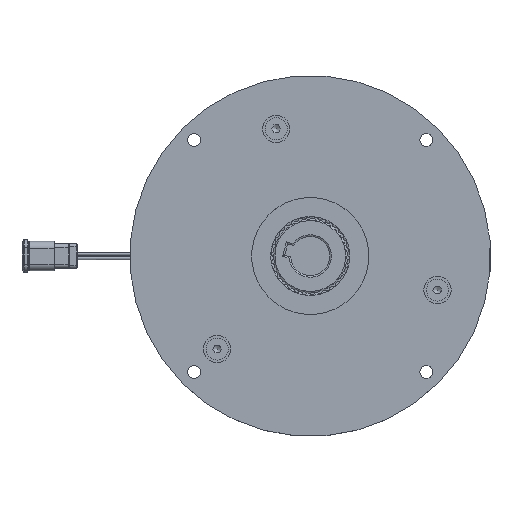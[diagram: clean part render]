
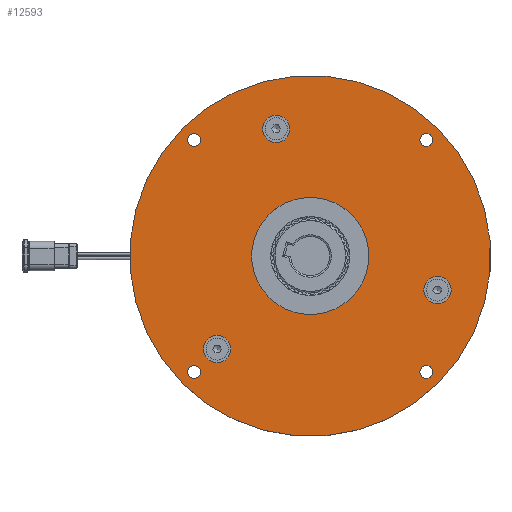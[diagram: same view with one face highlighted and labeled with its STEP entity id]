
A CAD part, top view. The second image highlights one B-rep face of the part: STEP entity #12593.
In plain terms, the highlighted planar face has unit normal (0, 0, 1).
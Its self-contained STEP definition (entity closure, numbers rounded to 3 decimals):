
#143=FACE_BOUND('',#1987,.T.);
#144=FACE_BOUND('',#1988,.T.);
#145=FACE_BOUND('',#1989,.T.);
#146=FACE_BOUND('',#1990,.T.);
#147=FACE_BOUND('',#1991,.T.);
#148=FACE_BOUND('',#1992,.T.);
#149=FACE_BOUND('',#1993,.T.);
#150=FACE_BOUND('',#1994,.T.);
#216=PLANE('',#13521);
#639=CIRCLE('',#13522,92.5);
#640=CIRCLE('',#13523,3.3);
#641=CIRCLE('',#13524,3.3);
#642=CIRCLE('',#13525,3.3);
#643=CIRCLE('',#13526,3.3);
#644=CIRCLE('',#13527,3.3);
#645=CIRCLE('',#13528,3.3);
#646=CIRCLE('',#13529,3.3);
#647=CIRCLE('',#13530,3.3);
#648=CIRCLE('',#13531,7.);
#649=CIRCLE('',#13532,7.);
#650=CIRCLE('',#13533,7.);
#651=CIRCLE('',#13534,7.);
#652=CIRCLE('',#13535,7.);
#653=CIRCLE('',#13536,7.);
#654=CIRCLE('',#13537,30.);
#1333=FACE_OUTER_BOUND('',#1986,.T.);
#1986=EDGE_LOOP('',(#9340));
#1987=EDGE_LOOP('',(#9341,#9342));
#1988=EDGE_LOOP('',(#9343,#9344));
#1989=EDGE_LOOP('',(#9345,#9346));
#1990=EDGE_LOOP('',(#9347,#9348));
#1991=EDGE_LOOP('',(#9349,#9350));
#1992=EDGE_LOOP('',(#9351,#9352));
#1993=EDGE_LOOP('',(#9353,#9354));
#1994=EDGE_LOOP('',(#9355));
#4976=VERTEX_POINT('',#20840);
#4977=VERTEX_POINT('',#20842);
#4978=VERTEX_POINT('',#20843);
#4979=VERTEX_POINT('',#20846);
#4980=VERTEX_POINT('',#20847);
#4981=VERTEX_POINT('',#20850);
#4982=VERTEX_POINT('',#20851);
#4983=VERTEX_POINT('',#20854);
#4984=VERTEX_POINT('',#20855);
#4985=VERTEX_POINT('',#20858);
#4986=VERTEX_POINT('',#20859);
#4987=VERTEX_POINT('',#20862);
#4988=VERTEX_POINT('',#20863);
#4989=VERTEX_POINT('',#20866);
#4990=VERTEX_POINT('',#20867);
#4991=VERTEX_POINT('',#20870);
#6524=EDGE_CURVE('',#4976,#4976,#639,.T.);
#6525=EDGE_CURVE('',#4977,#4978,#640,.T.);
#6526=EDGE_CURVE('',#4978,#4977,#641,.T.);
#6527=EDGE_CURVE('',#4979,#4980,#642,.T.);
#6528=EDGE_CURVE('',#4980,#4979,#643,.T.);
#6529=EDGE_CURVE('',#4981,#4982,#644,.T.);
#6530=EDGE_CURVE('',#4982,#4981,#645,.T.);
#6531=EDGE_CURVE('',#4983,#4984,#646,.T.);
#6532=EDGE_CURVE('',#4984,#4983,#647,.T.);
#6533=EDGE_CURVE('',#4985,#4986,#648,.T.);
#6534=EDGE_CURVE('',#4986,#4985,#649,.T.);
#6535=EDGE_CURVE('',#4987,#4988,#650,.T.);
#6536=EDGE_CURVE('',#4988,#4987,#651,.T.);
#6537=EDGE_CURVE('',#4989,#4990,#652,.T.);
#6538=EDGE_CURVE('',#4990,#4989,#653,.T.);
#6539=EDGE_CURVE('',#4991,#4991,#654,.T.);
#9340=ORIENTED_EDGE('',*,*,#6524,.T.);
#9341=ORIENTED_EDGE('',*,*,#6525,.T.);
#9342=ORIENTED_EDGE('',*,*,#6526,.T.);
#9343=ORIENTED_EDGE('',*,*,#6527,.T.);
#9344=ORIENTED_EDGE('',*,*,#6528,.T.);
#9345=ORIENTED_EDGE('',*,*,#6529,.T.);
#9346=ORIENTED_EDGE('',*,*,#6530,.T.);
#9347=ORIENTED_EDGE('',*,*,#6531,.T.);
#9348=ORIENTED_EDGE('',*,*,#6532,.T.);
#9349=ORIENTED_EDGE('',*,*,#6533,.T.);
#9350=ORIENTED_EDGE('',*,*,#6534,.T.);
#9351=ORIENTED_EDGE('',*,*,#6535,.T.);
#9352=ORIENTED_EDGE('',*,*,#6536,.T.);
#9353=ORIENTED_EDGE('',*,*,#6537,.T.);
#9354=ORIENTED_EDGE('',*,*,#6538,.T.);
#9355=ORIENTED_EDGE('',*,*,#6539,.T.);
#12593=ADVANCED_FACE('',(#1333,#143,#144,#145,#146,#147,#148,#149,#150),
#216,.T.);
#13521=AXIS2_PLACEMENT_3D('',#20839,#15643,#15644);
#13522=AXIS2_PLACEMENT_3D('',#20841,#15645,#15646);
#13523=AXIS2_PLACEMENT_3D('',#20844,#15647,#15648);
#13524=AXIS2_PLACEMENT_3D('',#20845,#15649,#15650);
#13525=AXIS2_PLACEMENT_3D('',#20848,#15651,#15652);
#13526=AXIS2_PLACEMENT_3D('',#20849,#15653,#15654);
#13527=AXIS2_PLACEMENT_3D('',#20852,#15655,#15656);
#13528=AXIS2_PLACEMENT_3D('',#20853,#15657,#15658);
#13529=AXIS2_PLACEMENT_3D('',#20856,#15659,#15660);
#13530=AXIS2_PLACEMENT_3D('',#20857,#15661,#15662);
#13531=AXIS2_PLACEMENT_3D('',#20860,#15663,#15664);
#13532=AXIS2_PLACEMENT_3D('',#20861,#15665,#15666);
#13533=AXIS2_PLACEMENT_3D('',#20864,#15667,#15668);
#13534=AXIS2_PLACEMENT_3D('',#20865,#15669,#15670);
#13535=AXIS2_PLACEMENT_3D('',#20868,#15671,#15672);
#13536=AXIS2_PLACEMENT_3D('',#20869,#15673,#15674);
#13537=AXIS2_PLACEMENT_3D('',#20871,#15675,#15676);
#15643=DIRECTION('center_axis',(0.,0.,
1.));
#15644=DIRECTION('ref_axis',(-0.707,0.707,0.));
#15645=DIRECTION('center_axis',(0.,0.,
1.));
#15646=DIRECTION('ref_axis',(0.707,-0.707,0.));
#15647=DIRECTION('center_axis',(0.,0.,
-1.));
#15648=DIRECTION('ref_axis',(0.707,0.707,0.));
#15649=DIRECTION('center_axis',(0.,0.,
-1.));
#15650=DIRECTION('ref_axis',(0.707,0.707,0.));
#15651=DIRECTION('center_axis',(0.,0.,
-1.));
#15652=DIRECTION('ref_axis',(0.707,-0.707,0.));
#15653=DIRECTION('center_axis',(0.,0.,
-1.));
#15654=DIRECTION('ref_axis',(0.707,-0.707,0.));
#15655=DIRECTION('center_axis',(0.,0.,
-1.));
#15656=DIRECTION('ref_axis',(-0.707,-0.707,0.));
#15657=DIRECTION('center_axis',(0.,0.,
-1.));
#15658=DIRECTION('ref_axis',(-0.707,-0.707,0.));
#15659=DIRECTION('center_axis',(0.,0.,
-1.));
#15660=DIRECTION('ref_axis',(-0.707,0.707,0.));
#15661=DIRECTION('center_axis',(0.,0.,
-1.));
#15662=DIRECTION('ref_axis',(-0.707,0.707,0.));
#15663=DIRECTION('center_axis',(0.,0.,
-1.));
#15664=DIRECTION('ref_axis',(0.966,0.259,0.));
#15665=DIRECTION('center_axis',(0.,0.,
-1.));
#15666=DIRECTION('ref_axis',(0.966,0.259,0.));
#15667=DIRECTION('center_axis',(0.,0.,
-1.));
#15668=DIRECTION('ref_axis',(-0.259,-0.966,0.));
#15669=DIRECTION('center_axis',(0.,0.,
-1.));
#15670=DIRECTION('ref_axis',(-0.259,-0.966,0.));
#15671=DIRECTION('center_axis',(0.,0.,
-1.));
#15672=DIRECTION('ref_axis',(-0.707,0.707,0.));
#15673=DIRECTION('center_axis',(0.,0.,
-1.));
#15674=DIRECTION('ref_axis',(-0.707,0.707,0.));
#15675=DIRECTION('center_axis',(0.,0.,
-1.));
#15676=DIRECTION('ref_axis',(0.707,-0.707,0.));
#20839=CARTESIAN_POINT('Origin',(0.,0.,
5.32));
#20840=CARTESIAN_POINT('',(-65.407,65.407,5.32));
#20841=CARTESIAN_POINT('Origin',(0.,0.,
5.32));
#20842=CARTESIAN_POINT('',(-57.17,61.836,5.32));
#20843=CARTESIAN_POINT('',(-61.836,57.17,5.32));
#20844=CARTESIAN_POINT('Origin',(-59.503,59.503,5.32));
#20845=CARTESIAN_POINT('Origin',(-59.503,59.503,5.32));
#20846=CARTESIAN_POINT('',(61.836,57.17,5.32));
#20847=CARTESIAN_POINT('',(57.17,61.836,5.32));
#20848=CARTESIAN_POINT('Origin',(59.503,59.503,5.32));
#20849=CARTESIAN_POINT('Origin',(59.503,59.503,5.32));
#20850=CARTESIAN_POINT('',(57.17,-61.836,5.32));
#20851=CARTESIAN_POINT('',(61.836,-57.17,5.32));
#20852=CARTESIAN_POINT('Origin',(59.503,-59.503,5.32));
#20853=CARTESIAN_POINT('Origin',(59.503,-59.503,5.32));
#20854=CARTESIAN_POINT('',(-61.836,-57.17,5.32));
#20855=CARTESIAN_POINT('',(-57.17,-61.836,5.32));
#20856=CARTESIAN_POINT('Origin',(-59.503,-59.503,5.32));
#20857=CARTESIAN_POINT('Origin',(-59.503,-59.503,5.32));
#20858=CARTESIAN_POINT('',(-10.709,67.012,5.32));
#20859=CARTESIAN_POINT('',(-24.232,63.388,5.32));
#20860=CARTESIAN_POINT('Origin',(-17.47,65.2,5.32));
#20861=CARTESIAN_POINT('Origin',(-17.47,65.2,5.32));
#20862=CARTESIAN_POINT('',(63.388,-24.232,5.32));
#20863=CARTESIAN_POINT('',(67.012,-10.709,5.32));
#20864=CARTESIAN_POINT('Origin',(65.2,-17.47,5.32));
#20865=CARTESIAN_POINT('Origin',(65.2,-17.47,5.32));
#20866=CARTESIAN_POINT('',(-52.679,-42.78,5.32));
#20867=CARTESIAN_POINT('',(-42.78,-52.679,5.32));
#20868=CARTESIAN_POINT('Origin',(-47.73,-47.73,5.32));
#20869=CARTESIAN_POINT('Origin',(-47.73,-47.73,5.32));
#20870=CARTESIAN_POINT('',(-21.213,21.213,5.32));
#20871=CARTESIAN_POINT('Origin',(0.,0.,
5.32));
